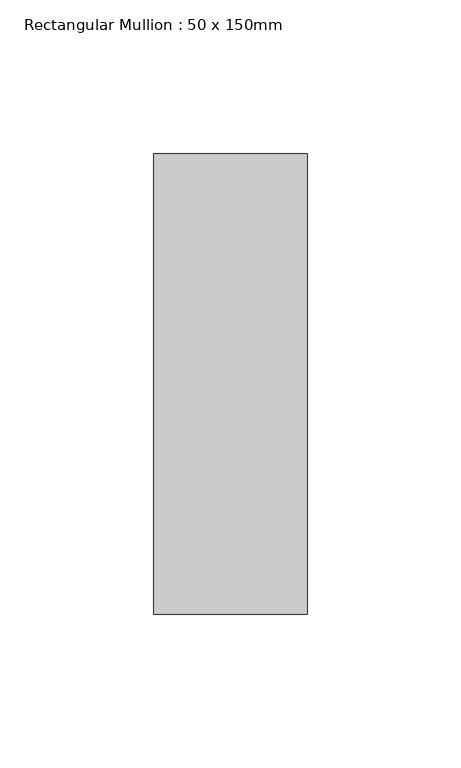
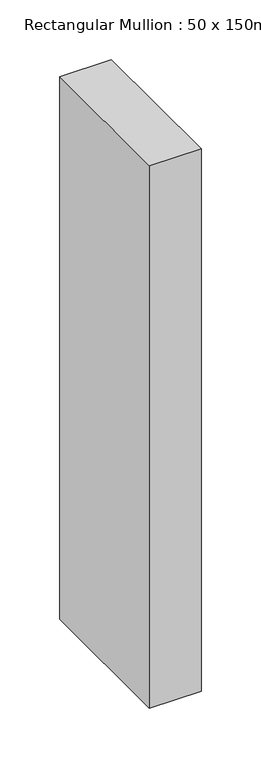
"""IFC4 building model written with IfcOpenShell, lengths in millimetres: member geometry, Rectangular Mullion : 50 x 150mm."""

from ifc_helpers import new_model, si_unit, frame, origin, place, context, project, spatial, polyline, outline, extrude, source, transform, mapped, element, save


def rectangular_mullion_50_x_150mm_af0ba744(model_context):
    return source(origin(), model_context, "Body", "SweptSolid", [
        extrude(outline(polyline([(25.0, 75.0), (25.0, -75.0), (-25.0, -75.0), (-25.0, 75.0), (25.0, 75.0)])), frame((0.0, 0.0, -553.9999999), z_axis=(0.0, 0.0, 1.0), x_axis=(1.0, 0.0, 0.0)), (0.0, 0.0, 1.0), 553.9999999),
    ])


if __name__ == "__main__":
    model = new_model("IFC4")
    model_context = context("Model", 3, world=origin())
    ifc_project = project(units=[si_unit("LENGTHUNIT", "METRE", prefix="MILLI")], contexts=[model_context])
    site = spatial("IfcSite", under=ifc_project)
    building = spatial("IfcBuilding", under=site)
    placement = place(None, origin())
    rectangular_mullion_50_x_150mm_shape = rectangular_mullion_50_x_150mm_af0ba744(model_context)
    element("IfcMember", 1, ObjectType="Rectangular Mullion : 50 x 150mm", at=placement, inside=building, context=model_context, shape_type="MappedRepresentation", body=[
        mapped(rectangular_mullion_50_x_150mm_shape, transform((0.0, 0.0, 0.0), x_axis=(1.0, 0.0, 0.0), y_axis=(0.0, 1.0, 0.0), z_axis=(0.0, 0.0, 1.0))),
    ])
    save(model, "model.ifc")
